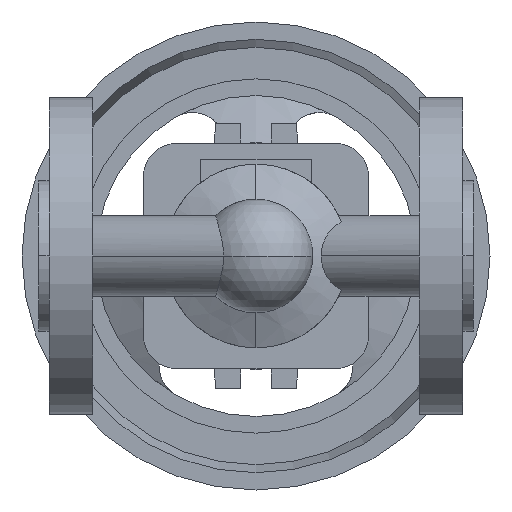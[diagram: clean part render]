
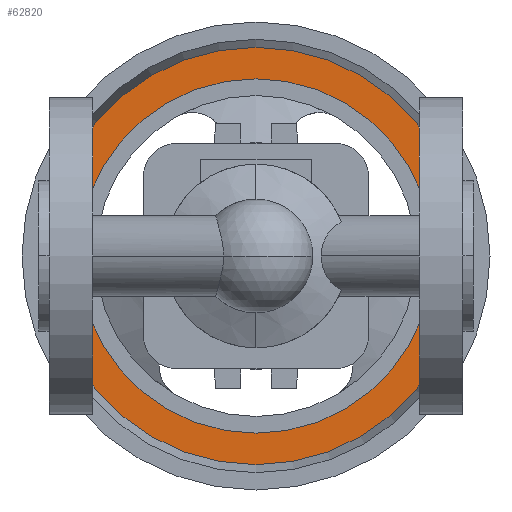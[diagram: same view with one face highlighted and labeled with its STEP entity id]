
A CAD part, front view. The second image highlights one B-rep face of the part: STEP entity #62820.
In plain terms, the highlighted planar face has unit normal (0, -1, 0).
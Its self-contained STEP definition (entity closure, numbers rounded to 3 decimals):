
#62270=CARTESIAN_POINT('',(127.412,236.5,0.)
);
#62280=VERTEX_POINT('',#62270);
#62310=CARTESIAN_POINT('',(65.,236.5,0.));
#62320=DIRECTION('',(0.,1.,0.));
#62330=DIRECTION('',(-1.,0.,0.));
#62340=AXIS2_PLACEMENT_3D('',#62310,#62320,#62330);
#62350=CIRCLE('',#62340,62.412);
#62360=CARTESIAN_POINT('',(2.588,236.5,0.));
#62370=VERTEX_POINT('',#62360);
#62380=EDGE_CURVE('',#62370,#62280,#62350,.T.);
#62570=CARTESIAN_POINT('',(7.294,236.5,0.))
;
#62580=DIRECTION('',(0.,-1.,0.));
#62590=DIRECTION('',(1.,0.,0.));
#62600=AXIS2_PLACEMENT_3D('',#62570,#62580,#62590);
#62610=PLANE('',#62600);
#62620=ORIENTED_EDGE('',*,*,#62380,.F.);
#62630=EDGE_CURVE('',#62280,#62370,#62350,.T.);
#62640=ORIENTED_EDGE('',*,*,#62630,.F.);
#62650=EDGE_LOOP('',(#62640,#62620));
#62660=FACE_OUTER_BOUND('',#62650,.T.);
#62670=CARTESIAN_POINT('',(65.,236.5,0.));
#62680=DIRECTION('',(0.,1.,0.));
#62690=DIRECTION('',(-1.,0.,0.));
#62700=AXIS2_PLACEMENT_3D('',#62670,#62680,#62690);
#62710=CIRCLE('',#62700,53.);
#62720=CARTESIAN_POINT('',(118.,236.5,0.));
#62730=VERTEX_POINT('',#62720);
#62740=CARTESIAN_POINT('',(12.,236.5,0.));
#62750=VERTEX_POINT('',#62740);
#62760=EDGE_CURVE('',#62730,#62750,#62710,.T.);
#62770=ORIENTED_EDGE('',*,*,#62760,.T.);
#62780=EDGE_CURVE('',#62750,#62730,#62710,.T.);
#62790=ORIENTED_EDGE('',*,*,#62780,.T.);
#62800=EDGE_LOOP('',(#62790,#62770));
#62810=FACE_BOUND('',#62800,.T.);
#62820=ADVANCED_FACE('',(#62660,#62810),#62610,.T.);
